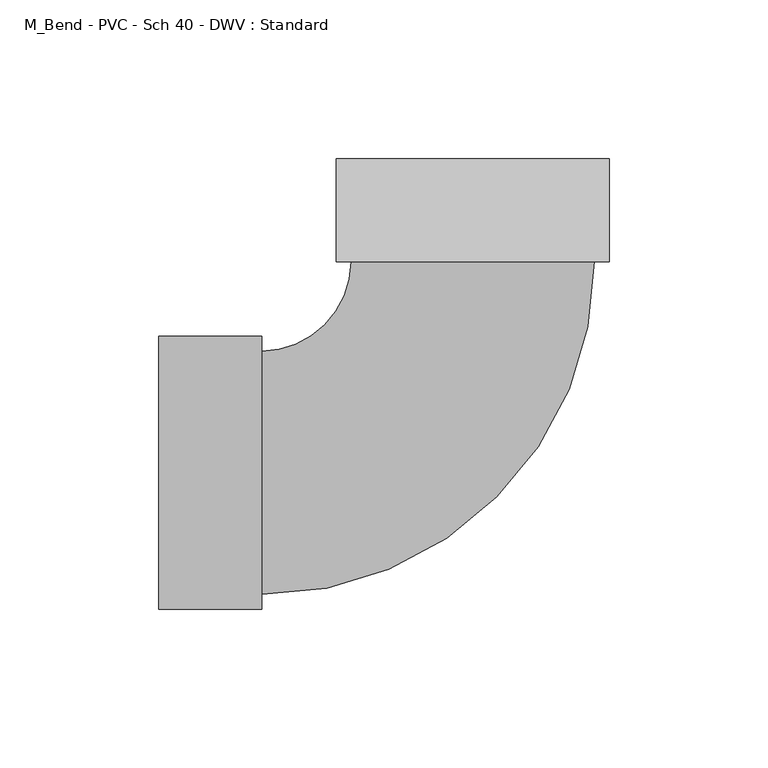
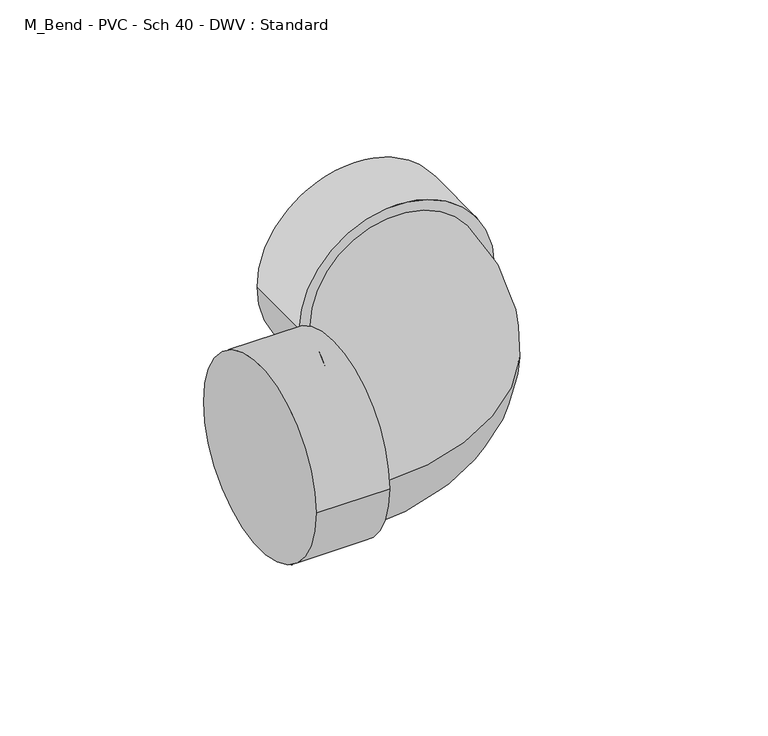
"""IFC4 building model written with IfcOpenShell, lengths in millimetres: pipe fitting geometry, M_Bend - PVC - Sch 40 - DWV : Standard."""

import ifcopenshell
import ifcopenshell.guid

model = None  # the IFC model being written
_history = None  # IfcOwnerHistory: only IFC2X3 demands one
_inside = {}  # id of a spatial element -> (the spatial element, [elements in it])
_under = {}  # id of a project, library or spatial element -> (it, [spatial elements below it])
_declared = {}  # id of a project -> (the project, [libraries it declares])
_typed = {}  # id of a type object -> (the type object, [elements of that type])
_made_of = {}  # id of a material, layer set ... -> (it, [elements and type objects made of it])


def new_model(schema):
    """Start an empty IFC model of exactly this schema.

    Asked for "IFC4X3", IfcOpenShell would pick the latest addendum, in which some entities
    have other attributes; the version numbers below select the first issue.
    IFC2X3 requires an IfcOwnerHistory on every rooted entity: one is made here for all.
    """
    global model, _history
    if schema == "IFC4X3":
        model = ifcopenshell.file(schema_version=(4, 3, 0, 0))
    else:
        model = ifcopenshell.file(schema=schema)
    _inside.clear()
    _under.clear()
    _declared.clear()
    _typed.clear()
    _made_of.clear()
    _history = None
    if model.schema == "IFC2X3":
        org = make("IfcOrganization", Name="unknown")
        user = make(
            "IfcPersonAndOrganization",
            ThePerson=make("IfcPerson", FamilyName="unknown"),
            TheOrganization=org,
        )
        app = make(
            "IfcApplication",
            ApplicationDeveloper=org,
            Version="unknown",
            ApplicationFullName="unknown",
            ApplicationIdentifier="unknown",
        )
        _history = make(
            "IfcOwnerHistory",
            OwningUser=user,
            OwningApplication=app,
            ChangeAction="ADDED",
            CreationDate=0,
        )
    return model


def make(cls, **values):
    """One entity of the class cls with the attributes given. An attribute that is None is left unset."""
    return model.create_entity(
        cls, **{name: value for name, value in values.items() if value is not None}
    )


def rooted(cls, **values):
    """An entity with a GlobalId (a new one), such as an element, a storey or a relation."""
    return make(cls, GlobalId=ifcopenshell.guid.new(), OwnerHistory=_history, **values)


def si_unit(unit_type, name, prefix=None):
    """IfcSIUnit, for example si_unit("LENGTHUNIT", "METRE", prefix="MILLI")."""
    return make("IfcSIUnit", UnitType=unit_type, Prefix=prefix, Name=name)


def assignment(units):
    """IfcUnitAssignment: the units of a project."""
    return None if units is None else make("IfcUnitAssignment", Units=units)


def point(xyz):
    """IfcCartesianPoint."""
    return None if xyz is None else make("IfcCartesianPoint", Coordinates=xyz)


def direction(xyz):
    """IfcDirection."""
    return None if xyz is None else make("IfcDirection", DirectionRatios=xyz)


def frame(location, z_axis=None, x_axis=None):
    """IfcAxis2Placement3D, a coordinate frame: its origin and axes. An axis left out is left unset."""
    return make(
        "IfcAxis2Placement3D",
        Location=point(location),
        Axis=direction(z_axis),
        RefDirection=direction(x_axis),
    )


def origin():
    """The frame at (0, 0, 0) with its axes left unset."""
    return frame((0.0, 0.0, 0.0))


def place(relative_to, where):
    """IfcLocalPlacement: puts the frame where relative to a parent placement (None: the world)."""
    return make(
        "IfcLocalPlacement", PlacementRelTo=relative_to, RelativePlacement=where
    )


def context(
    kind, dimensions, precision=None, world=None, true_north=None, identifier=None
):
    """IfcGeometricRepresentationContext, for example the 3D "Model" context."""
    return make(
        "IfcGeometricRepresentationContext",
        ContextIdentifier=identifier,
        ContextType=kind,
        CoordinateSpaceDimension=dimensions,
        Precision=precision,
        WorldCoordinateSystem=world,
        TrueNorth=true_north,
    )


def project(units=None, contexts=None):
    """IfcProject with its units and contexts."""
    return rooted(
        "IfcProject",
        Name="project",
        RepresentationContexts=contexts,
        UnitsInContext=assignment(units),
    )


def spatial(cls, under=None, at=None, **own):
    """A site, building, storey or space (cls), placed at a placement, below another one or the project."""
    s = rooted(cls, ObjectPlacement=at, **own)
    if under is not None:
        _under.setdefault(under.id(), (under, []))[1].append(s)
    return s


def circle_curve(where, radius):
    """IfcCircle in the frame where."""
    return make("IfcCircle", Position=where, Radius=radius)


def ellipse_curve(where, semi_axis1, semi_axis2):
    """IfcEllipse in the frame where."""
    return make(
        "IfcEllipse", Position=where, SemiAxis1=semi_axis1, SemiAxis2=semi_axis2
    )


def trimmed(basis, trim1, trim2, sense, master):
    """IfcTrimmedCurve: the piece of a basis curve between two trims."""
    return make(
        "IfcTrimmedCurve",
        BasisCurve=basis,
        Trim1=trim1,
        Trim2=trim2,
        SenseAgreement=sense,
        MasterRepresentation=master,
    )


def shape(context_of_items, identifier, shape_type, items):
    """IfcShapeRepresentation: the items that make up one representation, for example the "Body"."""
    return make(
        "IfcShapeRepresentation",
        ContextOfItems=context_of_items,
        RepresentationIdentifier=identifier,
        RepresentationType=shape_type,
        Items=items,
    )


def source(mapping_origin, context_of_items, identifier, shape_type, items):
    """IfcRepresentationMap: a shape defined once, which mapped items show again and again."""
    return make(
        "IfcRepresentationMap",
        MappingOrigin=mapping_origin,
        MappedRepresentation=shape(context_of_items, identifier, shape_type, items),
    )


def transform(
    local_origin,
    x_axis=None,
    y_axis=None,
    z_axis=None,
    scale=None,
    scale2=None,
    scale3=None,
    uniform=True,
):
    """IfcCartesianTransformationOperator3D, or its non-uniform kind. x_axis, y_axis, z_axis: its Axis1, 2, 3."""
    if uniform:
        return make(
            "IfcCartesianTransformationOperator3D",
            Axis1=direction(x_axis),
            Axis2=direction(y_axis),
            LocalOrigin=point(local_origin),
            Scale=scale,
            Axis3=direction(z_axis),
        )
    return make(
        "IfcCartesianTransformationOperator3DnonUniform",
        Axis1=direction(x_axis),
        Axis2=direction(y_axis),
        LocalOrigin=point(local_origin),
        Scale=scale,
        Axis3=direction(z_axis),
        Scale2=scale2,
        Scale3=scale3,
    )


def mapped(mapping_source, mapping_target):
    """IfcMappedItem: shows the shape of a source again, moved by a transform."""
    return make(
        "IfcMappedItem", MappingSource=mapping_source, MappingTarget=mapping_target
    )


def made_of(thing, what):
    """Note that an element or type object is made of a material, layer set ...; save() writes the relation."""
    if what is not None:
        _made_of.setdefault(what.id(), (what, []))[1].append(thing)
    return thing


def element(
    cls,
    number,
    at=None,
    inside=None,
    cuts=None,
    type_object=None,
    material=None,
    context=None,
    identifier="Body",
    shape_type=None,
    held_by="IfcProductDefinitionShape",
    body=None,
    shapes=None,
    **own,
):
    """One element of the class cls, such as IfcWall. Its Tag is "e" and its number.

    at: its placement. inside: the storey or other place that contains it. cuts: it is an
    opening in that element (IfcRelVoidsElement). A single representation is given by context,
    identifier, shape_type and body (its items); several are given by shapes. held_by: the class
    of the entity that holds the representations. save() writes the other relations.
    """
    e = rooted(cls, Tag="e%d" % number, ObjectPlacement=at, **own)
    if body is not None:
        shapes = [shape(context, identifier, shape_type, body)]
    if shapes is not None:
        e.Representation = make(held_by, Representations=shapes)
    if inside is not None:
        _inside.setdefault(inside.id(), (inside, []))[1].append(e)
    if cuts is not None:
        rooted(
            "IfcRelVoidsElement", RelatingBuildingElement=cuts, RelatedOpeningElement=e
        )
    if type_object is not None:
        _typed.setdefault(type_object.id(), (type_object, []))[1].append(e)
    return made_of(e, material)


def aggregate(whole, parts):
    """IfcRelAggregates: a whole, such as a stair, and the parts it consists of."""
    return rooted("IfcRelAggregates", RelatingObject=whole, RelatedObjects=parts)


def save(model, path):
    """Write the relations noted so far, then the file.

    IfcRelAggregates (storeys below a building ...), IfcRelContainedInSpatialStructure (elements
    in a storey), IfcRelDefinesByType, IfcRelAssociatesMaterial and IfcRelDeclares: one each for
    every whole, place, type object, material and project.
    """
    for whole, parts in _under.values():
        aggregate(whole, parts)
    for where, things in _inside.values():
        rooted(
            "IfcRelContainedInSpatialStructure",
            RelatedElements=things,
            RelatingStructure=where,
        )
    for kind, things in _typed.values():
        rooted("IfcRelDefinesByType", RelatedObjects=things, RelatingType=kind)
    for what, things in _made_of.values():
        rooted("IfcRelAssociatesMaterial", RelatedObjects=things, RelatingMaterial=what)
    for by, libraries in _declared.values():
        rooted("IfcRelDeclares", RelatingContext=by, RelatedDefinitions=libraries)
    model.write(path)


def plane_surface(at):
    """IfcPlane: the flat surface through the origin of the frame at, square to its z axis."""
    return make("IfcPlane", Position=at)


def cylinder_surface(at, radius):
    """IfcCylindricalSurface: all points at the distance radius from the z axis of the frame at."""
    return make("IfcCylindricalSurface", Position=at, Radius=radius)


def revolved_surface(curve, axis_point, axis_direction):
    """IfcSurfaceOfRevolution: the curve turned about the line through axis_point along axis_direction."""
    return make(
        "IfcSurfaceOfRevolution",
        SweptCurve=make("IfcArbitraryOpenProfileDef", ProfileType="CURVE", Curve=curve),
        AxisPosition=make("IfcAxis1Placement", Location=point(axis_point), Axis=direction(axis_direction)),
    )


def advanced_brep(points, edges, surfaces, faces):
    """IfcAdvancedBrep: a solid bounded by faces that lie on surfaces and meet in shared edges.

    An edge is (start, end): straight between two places in points (the first is 0);
    or (start, end, curve); or (start, end, curve, False) where it runs against its curve.
    A face is (place in surfaces, loops), or (place, loops, False) where it looks against
    its surface's normal. A loop lists edges by number (the first is 1), with a minus sign
    where the edge is run from its end to its start. The first loop is the outer one.
    """
    corners = [point(p) for p in points]
    vertices = [make("IfcVertexPoint", VertexGeometry=c) for c in corners]
    made = []
    for start, end, *more in edges:
        made.append(
            make(
                "IfcEdgeCurve",
                EdgeStart=vertices[start],
                EdgeEnd=vertices[end],
                EdgeGeometry=more[0] if more else make("IfcPolyline", Points=[corners[start], corners[end]]),
                SameSense=more[1] if len(more) > 1 else True,
            )
        )
    hull = []
    for where, loops, *sense in faces:
        bounds = []
        for j, loop in enumerate(loops):
            ring = [make("IfcOrientedEdge", EdgeElement=made[abs(k) - 1], Orientation=k > 0) for k in loop]
            bounds.append(
                make(
                    "IfcFaceOuterBound" if j == 0 else "IfcFaceBound",
                    Bound=make("IfcEdgeLoop", EdgeList=ring),
                    Orientation=True,
                )
            )
        hull.append(make("IfcAdvancedFace", Bounds=bounds, FaceSurface=surfaces[where], SameSense=sense[0] if sense else True))
    return make("IfcAdvancedBrep", Outer=make("IfcClosedShell", CfsFaces=hull))


def m_bend_pvc_sch_40_dwv_standard_69456cca(model_context):
    return source(origin(), model_context, "Body", "AdvancedBrep", [
        advanced_brep(
        [(-99.0140625, -43.0871094, 0.0), (-99.0140625, 43.0871094, 0.0), (-66.5140625, -43.0871094, 0.0), (-66.5140625, 43.0871094, 0.0), (-66.5140625, -38.3640625, 0.0), (-66.5140625, 38.3640625, 0.0), (-38.3573775, 66.5179178, 0.0), (38.3707471, 66.5102065, 0.0), (43.093794, 66.5097318, 0.0), (-43.0804243, 66.5183925, 0.0), (43.0970603, 99.0097316, 0.0), (-43.077158, 99.0183924, 0.0)],
        [
            (0, 1, circle_curve(frame((-99.0140625, 0.0, 0.0), z_axis=(-1.0, 0.0, 0.0), x_axis=(0.0, 1.0, 0.0)), 43.0871094)),
            (1, 0, circle_curve(frame((-99.0140625, 0.0, 0.0), z_axis=(-1.0, 0.0, 0.0), x_axis=(0.0, 1.0, 0.0)), 43.0871094)),
            (2, 3, circle_curve(frame((-66.5140625, 0.0, 0.0), z_axis=(1.0, 0.0, 0.0), x_axis=(0.0, 1.0, 0.0)), 43.0871094)),
            (3, 2, circle_curve(frame((-66.5140625, 0.0, 0.0), z_axis=(1.0, 0.0, 0.0), x_axis=(0.0, 1.0, 0.0)), 43.0871094)),
            (4, 5, circle_curve(frame((-66.5140625, 0.0, 0.0), z_axis=(-1.0, 0.0, 0.0), x_axis=(0.0, 1.0, 0.0)), 38.3640625)),
            (5, 4, circle_curve(frame((-66.5140625, 0.0, 0.0), z_axis=(-1.0, 0.0, 0.0), x_axis=(0.0, 1.0, 0.0)), 38.3640625)),
            (0, 2),
            (3, 1),
            (6, 5, circle_curve(frame((-66.5140625, 66.5207477, 0.0), z_axis=(0.0, 0.0, -1.0), x_axis=(0.0, -1.0, 0.0)), 28.1566852)),
            (4, 7, circle_curve(frame((-66.5140625, 66.5207477, 0.0), z_axis=(0.0, 0.0, 1.0), x_axis=(0.0, -1.0, 0.0)), 104.8848102)),
            (7, 6, circle_curve(frame((0.0066848, 66.5140622, 0.0), z_axis=(-0.0001005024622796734, -0.9999999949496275, 0.0), x_axis=(-0.9999999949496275, 0.0001005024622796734, 0.0)), 38.3640625)),
            (6, 7, circle_curve(frame((0.0066848, 66.5140622, 0.0), z_axis=(-0.0001005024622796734, -0.9999999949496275, 0.0), x_axis=(-0.9999999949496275, 0.0001005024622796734, 0.0)), 38.3640625)),
            (8, 9, circle_curve(frame((0.0066848, 66.5140622, 0.0), z_axis=(-0.00010050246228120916, -0.9999999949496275, 0.0), x_axis=(-0.9999999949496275, 0.00010050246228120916, 0.0)), 43.0871094)),
            (9, 8, circle_curve(frame((0.0066848, 66.5140622, 0.0), z_axis=(-0.00010050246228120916, -0.9999999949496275, 0.0), x_axis=(-0.9999999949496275, 0.00010050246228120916, 0.0)), 43.0871094)),
            (10, 11, circle_curve(frame((0.0099512, 99.014062, 0.0), z_axis=(0.00010050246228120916, 0.9999999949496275, 0.0), x_axis=(-0.9999999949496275, 0.00010050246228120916, 0.0)), 43.0871094)),
            (11, 10, circle_curve(frame((0.0099512, 99.014062, 0.0), z_axis=(0.00010050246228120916, 0.9999999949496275, 0.0), x_axis=(-0.9999999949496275, 0.00010050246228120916, 0.0)), 43.0871094)),
            (8, 10),
            (11, 9),
        ],
        [
            plane_surface(frame((-99.0140625, 0.0, 0.0), z_axis=(-1.0, 0.0, 0.0), x_axis=(0.0, 0.0, 1.0))),
            plane_surface(frame((-66.5140625, 0.0, 0.0), z_axis=(1.0, 0.0, 0.0), x_axis=(0.0, 0.0, 1.0))),
            cylinder_surface(frame((-99.0140625, 0.0, 0.0), z_axis=(-1.0, 0.0, 0.0), x_axis=(0.0, 1.0, 0.0)), 43.0871094),
            revolved_surface(trimmed(ellipse_curve(frame((-66.5140625, 0.0, 0.0), z_axis=(-1.0, 0.0, 0.0), x_axis=(0.0, 1.0, 0.0)), 38.3640625, 38.3640625), [point((-66.5140625, -38.3640625, 0.0))], [point((-66.5140625, 38.3640625, 0.0))], True, "CARTESIAN"), (-66.5140625, 66.5207477, 0.0), (0.0, 0.0, 1.0)),
            revolved_surface(trimmed(ellipse_curve(frame((-66.5140625, 0.0, 0.0), z_axis=(-1.0, 0.0, 0.0), x_axis=(0.0, 1.0, 0.0)), 38.3640625, 38.3640625), [point((-66.5140625, 38.3640625, 0.0))], [point((-66.5140625, -38.3640625, 0.0))], True, "CARTESIAN"), (-66.5140625, 66.5207477, 0.0), (0.0, 0.0, 1.0)),
            plane_surface(frame((0.0066848, 66.5140622, 0.0), z_axis=(-0.00010050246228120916, -0.9999999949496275, 0.0), x_axis=(0.0, 0.0, 1.0))),
            plane_surface(frame((0.0099512, 99.014062, 0.0), z_axis=(0.00010050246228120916, 0.9999999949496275, 0.0), x_axis=(0.0, 0.0, 1.0))),
            cylinder_surface(frame((0.0066848, 66.5140622, 0.0), z_axis=(-0.00010050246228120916, -0.9999999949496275, 0.0), x_axis=(-0.9999999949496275, 0.00010050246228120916, 0.0)), 43.0871094),
        ],
        [
            (0, [[1, 2]]),
            (1, [[3, 4], [5, 6]]),
            (2, [[-1, 7, -4, 8]]),
            (2, [[-2, -8, -3, -7]]),
            (3, [[9, -5, 10, 11]]),
            (4, [[-9, 12, -10, -6]]),
            (5, [[13, 14], [-11, -12]]),
            (6, [[15, 16]]),
            (7, [[-13, 17, -16, 18]]),
            (7, [[-14, -18, -15, -17]]),
        ],
    ),
    ])


if __name__ == "__main__":
    model = new_model("IFC4")
    model_context = context("Model", 3, world=origin())
    ifc_project = project(units=[si_unit("LENGTHUNIT", "METRE", prefix="MILLI")], contexts=[model_context])
    site = spatial("IfcSite", under=ifc_project)
    building = spatial("IfcBuilding", under=site)
    placement = place(None, origin())
    m_bend_pvc_sch_40_dwv_standard_shape = m_bend_pvc_sch_40_dwv_standard_69456cca(model_context)
    element("IfcPipeFitting", 1, ObjectType="M_Bend - PVC - Sch 40 - DWV : Standard", at=placement, inside=building, context=model_context, shape_type="MappedRepresentation", body=[
        mapped(m_bend_pvc_sch_40_dwv_standard_shape, transform((0.0, 0.0, 0.0), x_axis=(1.0, 0.0, 0.0), y_axis=(0.0, 1.0, 0.0), z_axis=(0.0, 0.0, 1.0))),
    ])
    save(model, "model.ifc")
